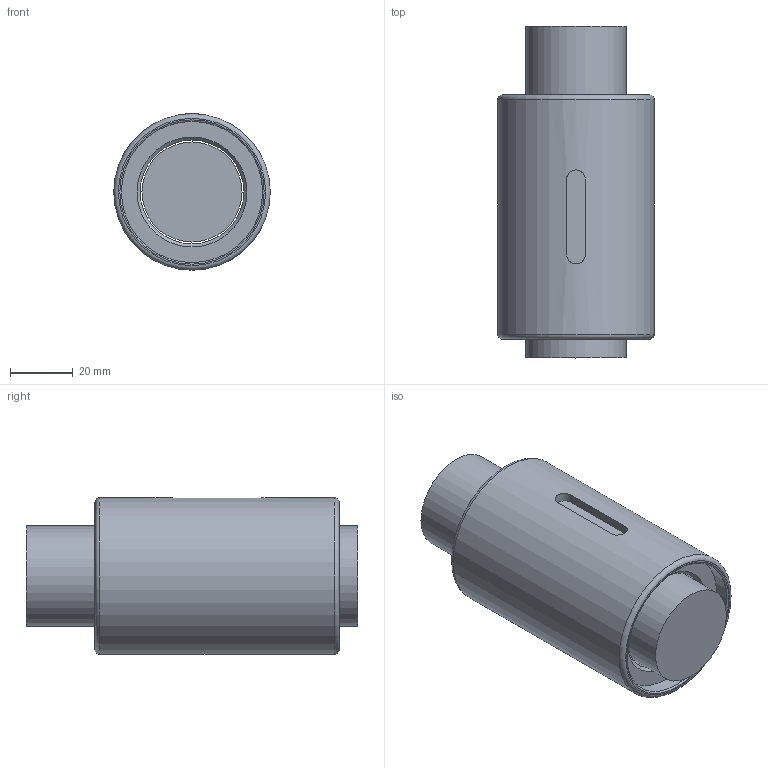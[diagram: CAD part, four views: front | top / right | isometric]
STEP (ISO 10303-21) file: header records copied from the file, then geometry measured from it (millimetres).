
FILE_DESCRIPTION(/* description */ (''),/* implementation_level */ '2;1');
FILE_NAME(/* name */ '3220.prt.step',/* time_stamp */ '2008-12-05T16:34:27+08:00',/* author */ (''),/* organization */ (''),/* preprocessor_version */ 'ST-DEVELOPER v11',/* originating_system */ 'SIEMENS UGS NX 6.0',/* authorisation */ '');
FILE_SCHEMA (('AUTOMOTIVE_DESIGN { 1 0 10303 214 1 1 1 1 }'));
Length unit declared in the file: millimetre
Products named in the file (1): 3220
Bounding box: 50 x 106 x 50 mm (x, y, z)
Volume: 162870.4 mm3; surface area: 34995 mm2
Topology: 2 solids, 2 shells, 22 faces, 42 edges, 27 vertices
Faces by surface type: plane 9, cylinder 7, torus 4, cone 2
Full cylindrical faces by diameter (mm): 31.95 x1, 33.1 x1, 45.1 x2, 50 x1
Entity records: 568 total; most frequent: CARTESIAN_POINT 135, DIRECTION 90, ORIENTED_EDGE 56, AXIS2_PLACEMENT_3D 41, EDGE_LOOP 38, FACE_BOUND 31, EDGE_CURVE 28, VERTEX_POINT 24
